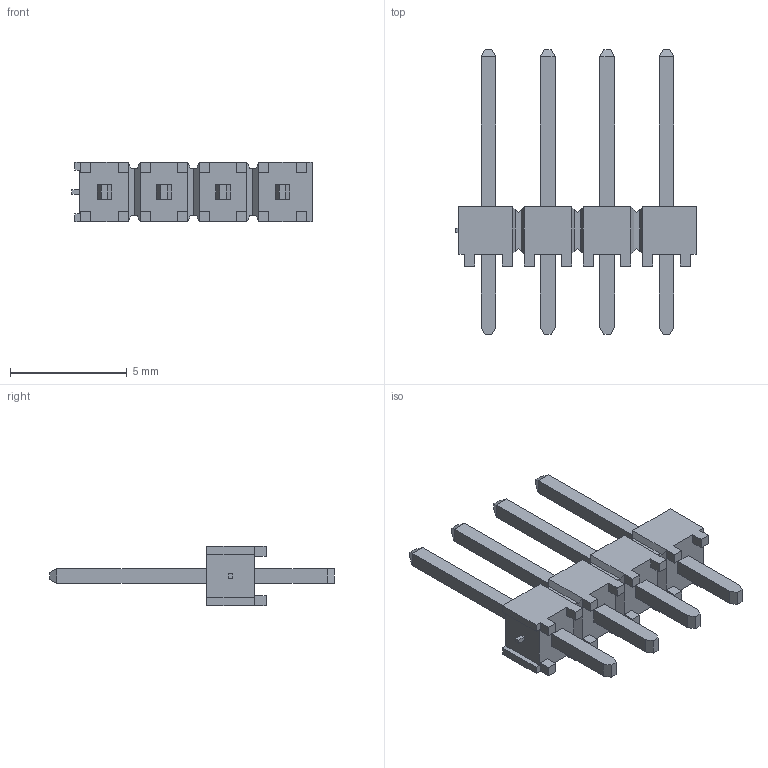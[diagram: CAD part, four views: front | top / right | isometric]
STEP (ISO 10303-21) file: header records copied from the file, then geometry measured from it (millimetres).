
FILE_DESCRIPTION( ( 'STEP AP214' ), '1' );
FILE_NAME( 'e:/temp/worker_126/temp/exporttempdir_7276_4_qnoVQ/format_0/TSW-104-24-G-S.stp', '2022-05-02T20:16:34', ( 'License CC BY-ND 4.0' ), ( 'CADENAS' ), ' ', 'PARTsolutions', ' ' );
FILE_SCHEMA( ( 'AUTOMOTIVE_DESIGN { 1 0 10303 214 1 1 1 1 }' ) );
Length unit declared in the file: inch
Products named in the file (3): TSW-104-24-G-S; _TSW-104-24-G-S_body; _T-1S6-17-TSW-1-24-4-S
Assembly tree (2 placements, depth 2):
  TSW-104-24-G-S
    _TSW-104-24-G-S_body
    _T-1S6-17-TSW-1-24-4-S
Bounding box: 10.29 x 12.19 x 2.54 mm (x, y, z)
Volume: 68 mm3; surface area: 276.6 mm2
Topology: 2 solids, 2 shells, 207 faces, 530 edges, 336 vertices
Faces by surface type: plane 207
Entity records: 7794 total; most frequent: CARTESIAN_POINT 1076, ORIENTED_EDGE 1060, DIRECTION 950, EDGE_CURVE 530, LINE 530, VECTOR 530, VERTEX_POINT 336, EDGE_LOOP 224
